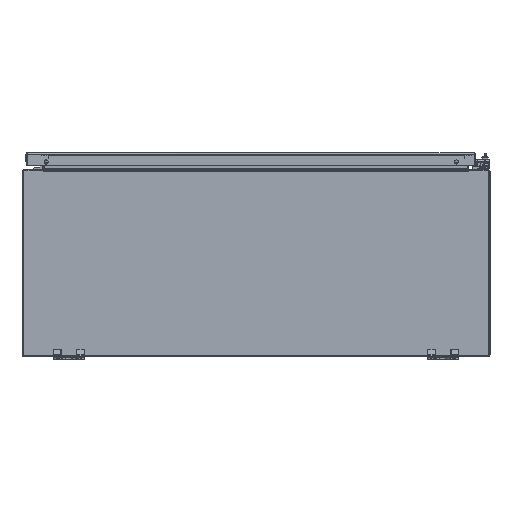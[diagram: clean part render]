
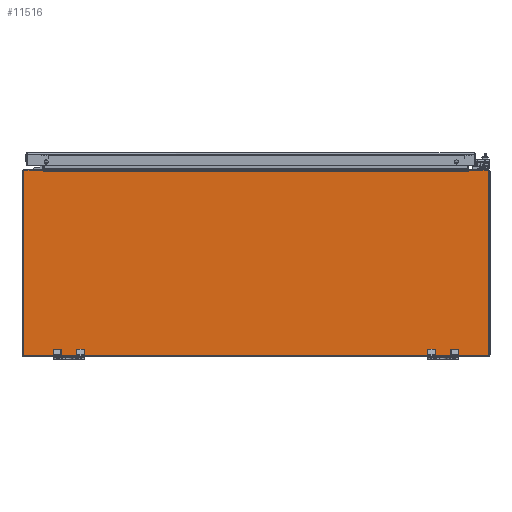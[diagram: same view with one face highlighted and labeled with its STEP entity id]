
A CAD part, front view. The second image highlights one B-rep face of the part: STEP entity #11516.
In plain terms, the highlighted planar face has unit normal (0, -1, 0).
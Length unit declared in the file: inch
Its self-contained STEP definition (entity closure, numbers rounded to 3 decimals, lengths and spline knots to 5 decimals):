
#10619=CARTESIAN_POINT('',(-14.887,0.,5.897));
#10620=DIRECTION('',(0.,-1.,0.));
#10621=DIRECTION('',(0.,0.,1.));
#10622=AXIS2_PLACEMENT_3D('',#10619,#10620,#10621);
#10627=CARTESIAN_POINT('',(14.887,0.,5.897));
#10628=DIRECTION('',(0.,-1.,0.));
#10629=DIRECTION('',(1.,0.,0.));
#10630=AXIS2_PLACEMENT_3D('',#10627,#10628,#10629);
#10635=DIRECTION('',(0.,0.,-1.));
#10636=VECTOR('',#10635,11.764);
#10637=CARTESIAN_POINT('',(14.967,0.,5.897));
#10638=LINE('',#10637,#10636);
#10642=CARTESIAN_POINT('',(14.887,0.,-5.867));
#10643=DIRECTION('',(0.,-1.,0.));
#10644=DIRECTION('',(0.,0.,-1.));
#10645=AXIS2_PLACEMENT_3D('',#10642,#10643,#10644);
#10650=CARTESIAN_POINT('',(-14.887,0.,-5.867));
#10651=DIRECTION('',(0.,-1.,0.));
#10652=DIRECTION('',(-1.,0.,0.));
#10653=AXIS2_PLACEMENT_3D('',#10650,#10651,#10652);
#10658=DIRECTION('',(0.,0.,1.));
#10659=VECTOR('',#10658,11.764);
#10660=CARTESIAN_POINT('',(-14.967,0.,-5.867));
#10661=LINE('',#10660,#10659);
#10686=DIRECTION('',(1.,0.,0.));
#10687=VECTOR('',#10686,29.774);
#10688=CARTESIAN_POINT('',(-14.887,0.,-5.947));
#10689=LINE('',#10688,#10687);
#10728=DIRECTION('',(-1.,0.,0.));
#10729=VECTOR('',#10728,1.262);
#10730=CARTESIAN_POINT('',(14.887,0.,5.977));
#10731=LINE('',#10730,#10729);
#10756=DIRECTION('',(0.,0.,-1.));
#10757=VECTOR('',#10756,0.094);
#10758=CARTESIAN_POINT('',(13.625,0.,5.977));
#10759=LINE('',#10758,#10757);
#10899=DIRECTION('',(1.,0.,0.));
#10900=VECTOR('',#10899,27.25);
#10901=CARTESIAN_POINT('',(-13.625,0.,5.883));
#10902=LINE('',#10901,#10900);
#10943=DIRECTION('',(0.,0.,1.));
#10944=VECTOR('',#10943,0.094);
#10945=CARTESIAN_POINT('',(-13.625,0.,5.883));
#10946=LINE('',#10945,#10944);
#10978=DIRECTION('',(-1.,0.,0.));
#10979=VECTOR('',#10978,1.262);
#10980=CARTESIAN_POINT('',(-13.625,0.,5.977));
#10981=LINE('',#10980,#10979);
#11369=CARTESIAN_POINT('',(-13.625,0.,5.883));
#11370=CARTESIAN_POINT('',(13.625,0.,5.883));
#11371=VERTEX_POINT('',#11369);
#11372=VERTEX_POINT('',#11370);
#11445=CARTESIAN_POINT('',(13.625,0.,5.977));
#11447=VERTEX_POINT('',#11445);
#11449=CARTESIAN_POINT('',(-13.625,0.,5.977));
#11451=VERTEX_POINT('',#11449);
#11453=CARTESIAN_POINT('',(-14.887,0.,5.977));
#11454=CARTESIAN_POINT('',(-14.967,0.,5.897));
#11455=VERTEX_POINT('',#11453);
#11456=VERTEX_POINT('',#11454);
#11461=CARTESIAN_POINT('',(-14.967,0.,-5.867));
#11462=CARTESIAN_POINT('',(-14.887,0.,-5.947));
#11463=VERTEX_POINT('',#11461);
#11464=VERTEX_POINT('',#11462);
#11469=CARTESIAN_POINT('',(14.967,0.,5.897));
#11470=CARTESIAN_POINT('',(14.887,0.,5.977));
#11471=VERTEX_POINT('',#11469);
#11472=VERTEX_POINT('',#11470);
#11477=CARTESIAN_POINT('',(14.887,0.,-5.947));
#11478=CARTESIAN_POINT('',(14.967,0.,-5.867));
#11479=VERTEX_POINT('',#11477);
#11480=VERTEX_POINT('',#11478);
#11485=CARTESIAN_POINT('',(0.,0.,0.));
#11486=DIRECTION('',(0.,-1.,0.));
#11487=DIRECTION('',(-1.,0.,0.));
#11488=AXIS2_PLACEMENT_3D('',#11485,#11486,#11487);
#11489=PLANE('',#11488);
#11491=ORIENTED_EDGE('',*,*,#11490,.F.);
#11493=ORIENTED_EDGE('',*,*,#11492,.F.);
#11495=ORIENTED_EDGE('',*,*,#11494,.F.);
#11497=ORIENTED_EDGE('',*,*,#11496,.T.);
#11499=ORIENTED_EDGE('',*,*,#11498,.F.);
#11501=ORIENTED_EDGE('',*,*,#11500,.F.);
#11503=ORIENTED_EDGE('',*,*,#11502,.F.);
#11505=ORIENTED_EDGE('',*,*,#11504,.T.);
#11507=ORIENTED_EDGE('',*,*,#11506,.F.);
#11509=ORIENTED_EDGE('',*,*,#11508,.F.);
#11511=ORIENTED_EDGE('',*,*,#11510,.F.);
#11513=ORIENTED_EDGE('',*,*,#11512,.T.);
#11514=EDGE_LOOP('',(#11491,#11493,#11495,#11497,#11499,#11501,#11503,#11505,
#11507,#11509,#11511,#11513));
#11515=FACE_OUTER_BOUND('',#11514,.F.);
#10623=CIRCLE('',#10622,0.08);
#10631=CIRCLE('',#10630,0.08);
#10646=CIRCLE('',#10645,0.08);
#10654=CIRCLE('',#10653,0.08);
#11490=EDGE_CURVE('',#11455,#11456,#10623,.T.);
#11492=EDGE_CURVE('',#11451,#11455,#10981,.T.);
#11494=EDGE_CURVE('',#11371,#11451,#10946,.T.);
#11496=EDGE_CURVE('',#11371,#11372,#10902,.T.);
#11498=EDGE_CURVE('',#11447,#11372,#10759,.T.);
#11500=EDGE_CURVE('',#11472,#11447,#10731,.T.);
#11502=EDGE_CURVE('',#11471,#11472,#10631,.T.);
#11504=EDGE_CURVE('',#11471,#11480,#10638,.T.);
#11506=EDGE_CURVE('',#11479,#11480,#10646,.T.);
#11508=EDGE_CURVE('',#11464,#11479,#10689,.T.);
#11510=EDGE_CURVE('',#11463,#11464,#10654,.T.);
#11512=EDGE_CURVE('',#11463,#11456,#10661,.T.);
#11516=ADVANCED_FACE('',(#11515),#11489,.T.);
